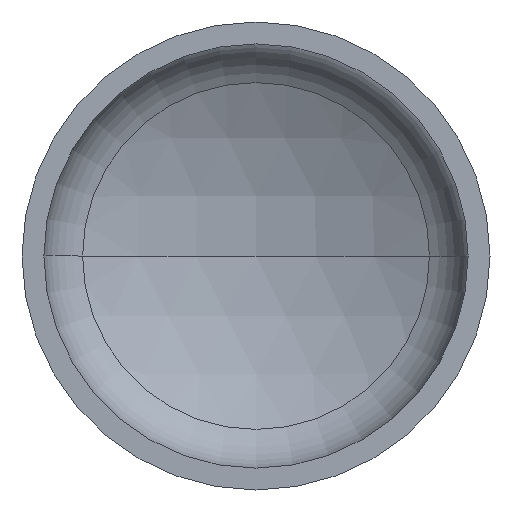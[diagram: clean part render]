
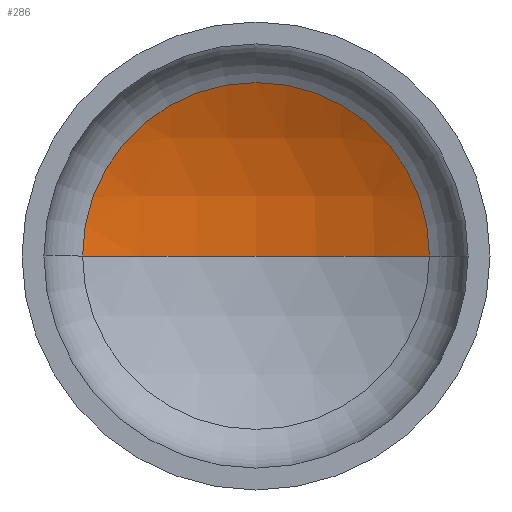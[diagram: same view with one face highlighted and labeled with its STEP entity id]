
A CAD part, front view. The second image highlights one B-rep face of the part: STEP entity #286.
In plain terms, the highlighted spherical face has radius 960 mm.
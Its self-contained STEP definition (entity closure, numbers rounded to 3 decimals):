
#11 = ORIENTED_EDGE ( 'NONE', *, *, #51, .T. ) ;
#18 = AXIS2_PLACEMENT_3D ( 'NONE', #216, #367, #337 ) ;
#22 = AXIS2_PLACEMENT_3D ( 'NONE', #241, #67, #266 ) ;
#23 = AXIS2_PLACEMENT_3D ( 'NONE', #360, #181, #390 ) ;
#25 = AXIS2_PLACEMENT_3D ( 'NONE', #97, #296, #125 ) ;
#51 = EDGE_CURVE ( 'NONE', #384, #177, #56, .T. ) ;
#52 = EDGE_CURVE ( 'NONE', #394, #384, #356, .T. ) ;
#53 = EDGE_CURVE ( 'NONE', #394, #177, #201, .T. ) ;
#56 = CIRCLE ( 'NONE', #25, 444.697 ) ;
#67 = DIRECTION ( 'NONE',  ( 0., 0., 1. ) ) ;
#80 = CARTESIAN_POINT ( 'NONE',  ( 0., 393.164, 0. ) ) ;
#97 = CARTESIAN_POINT ( 'NONE',  ( 0., 283.954, 0. ) ) ;
#125 = DIRECTION ( 'NONE',  ( 1., 0., 0. ) ) ;
#130 = CARTESIAN_POINT ( 'NONE',  ( -444.697, 283.954, 0. ) ) ;
#160 = EDGE_LOOP ( 'NONE', ( #324, #314, #11 ) ) ;
#177 = VERTEX_POINT ( 'NONE', #130 ) ;
#181 = DIRECTION ( 'NONE',  ( 0., 0., -1. ) ) ;
#201 = CIRCLE ( 'NONE', #22, 960. ) ;
#216 = CARTESIAN_POINT ( 'NONE',  ( 0., -566.836, 0. ) ) ;
#240 = SPHERICAL_SURFACE ( 'NONE', #18, 960. ) ;
#241 = CARTESIAN_POINT ( 'NONE',  ( 0., -566.836, 0. ) ) ;
#266 = DIRECTION ( 'NONE',  ( 1., 0., 0. ) ) ;
#276 = CARTESIAN_POINT ( 'NONE',  ( 444.697, 283.954, 0. ) ) ;
#286 = ADVANCED_FACE ( 'NONE', ( #318 ), #240, .F. ) ;
#296 = DIRECTION ( 'NONE',  ( 0., -1., 0. ) ) ;
#314 = ORIENTED_EDGE ( 'NONE', *, *, #52, .T. ) ;
#318 = FACE_OUTER_BOUND ( 'NONE', #160, .T. ) ;
#324 = ORIENTED_EDGE ( 'NONE', *, *, #53, .F. ) ;
#337 = DIRECTION ( 'NONE',  ( -1., 0., 0. ) ) ;
#356 = CIRCLE ( 'NONE', #23, 960. ) ;
#360 = CARTESIAN_POINT ( 'NONE',  ( 0., -566.836, 0. ) ) ;
#367 = DIRECTION ( 'NONE',  ( 0., 0., -1. ) ) ;
#384 = VERTEX_POINT ( 'NONE', #276 ) ;
#390 = DIRECTION ( 'NONE',  ( -1., 0., 0. ) ) ;
#394 = VERTEX_POINT ( 'NONE', #80 ) ;
